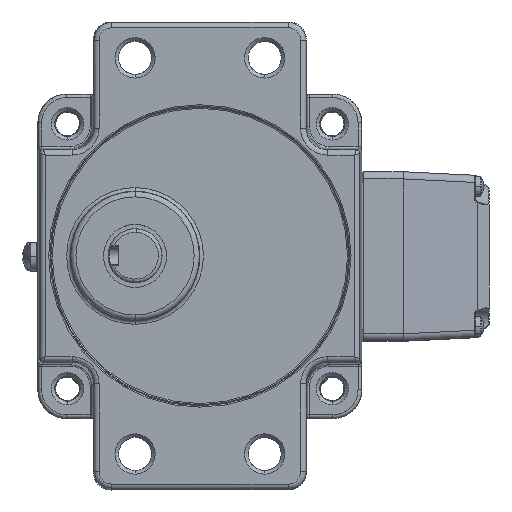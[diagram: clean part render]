
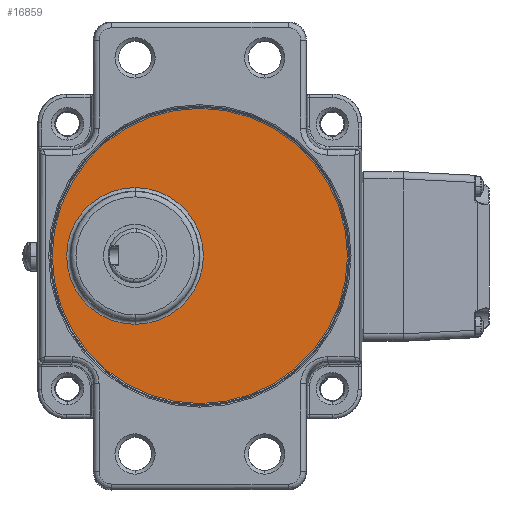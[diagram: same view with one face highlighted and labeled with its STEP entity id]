
A CAD part, top view. The second image highlights one B-rep face of the part: STEP entity #16859.
In plain terms, the highlighted planar face has unit normal (0, 0, 1) as drawn and (0, 0, -1) by its records, which use the part's own axes.
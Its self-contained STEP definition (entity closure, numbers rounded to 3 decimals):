
#442 = DIRECTION ( 'NONE',  ( 1., 0., 0. ) ) ;
#3366 = DIRECTION ( 'NONE',  ( 0., 0., -1. ) ) ;
#6036 = DIRECTION ( 'NONE',  ( 1., 0., 0. ) ) ;
#7174 = CARTESIAN_POINT ( 'NONE',  ( 40.991, 0., -65. ) ) ;
#7202 = ORIENTED_EDGE ( 'NONE', *, *, #18733, .F. ) ;
#9954 = CARTESIAN_POINT ( 'NONE',  ( 18.986, 18., -65. ) ) ;
#11741 = CARTESIAN_POINT ( 'NONE',  ( 0., 18., -65. ) ) ;
#13074 = CARTESIAN_POINT ( 'NONE',  ( 0., 0., -65. ) ) ;
#16859 = ADVANCED_FACE ( 'NONE', ( #20756, #20449 ), #30154, .F. ) ;
#18733 = EDGE_CURVE ( 'NONE', #24086, #28529, #56462, .T. ) ;
#18790 = CIRCLE ( 'NONE', #48739, 40.991 ) ;
#20449 = FACE_BOUND ( 'NONE', #26429, .T. ) ;
#20756 = FACE_OUTER_BOUND ( 'NONE', #51415, .T. ) ;
#21128 = VERTEX_POINT ( 'NONE', #49796 ) ;
#21808 = AXIS2_PLACEMENT_3D ( 'NONE', #13074, #3366, #42785 ) ;
#24086 = VERTEX_POINT ( 'NONE', #39620 ) ;
#24671 = DIRECTION ( 'NONE',  ( 0., 0., 1. ) ) ;
#24894 = ORIENTED_EDGE ( 'NONE', *, *, #26595, .F. ) ;
#25117 = VERTEX_POINT ( 'NONE', #7174 ) ;
#26429 = EDGE_LOOP ( 'NONE', ( #24894, #7202 ) ) ;
#26595 = EDGE_CURVE ( 'NONE', #28529, #24086, #44290, .T. ) ;
#28529 = VERTEX_POINT ( 'NONE', #9954 ) ;
#30154 = PLANE ( 'NONE',  #30622 ) ;
#30622 = AXIS2_PLACEMENT_3D ( 'NONE', #55357, #24671, #442 ) ;
#31779 = DIRECTION ( 'NONE',  ( 1., 0., 0. ) ) ;
#32307 = ORIENTED_EDGE ( 'NONE', *, *, #39834, .T. ) ;
#37047 = EDGE_CURVE ( 'NONE', #21128, #25117, #58997, .T. ) ;
#37917 = AXIS2_PLACEMENT_3D ( 'NONE', #61977, #38029, #58056 ) ;
#38029 = DIRECTION ( 'NONE',  ( 0., 0., -1. ) ) ;
#39620 = CARTESIAN_POINT ( 'NONE',  ( -18.986, 18., -65. ) ) ;
#39834 = EDGE_CURVE ( 'NONE', #25117, #21128, #18790, .T. ) ;
#42785 = DIRECTION ( 'NONE',  ( -1., 0., 0. ) ) ;
#44290 = CIRCLE ( 'NONE', #59757, 18.986 ) ;
#48739 = AXIS2_PLACEMENT_3D ( 'NONE', #50284, #55459, #6036 ) ;
#49796 = CARTESIAN_POINT ( 'NONE',  ( -40.991, 0., -65. ) ) ;
#50284 = CARTESIAN_POINT ( 'NONE',  ( 0., 0., -65. ) ) ;
#51415 = EDGE_LOOP ( 'NONE', ( #56957, #32307 ) ) ;
#55357 = CARTESIAN_POINT ( 'NONE',  ( 0., 0., -65. ) ) ;
#55459 = DIRECTION ( 'NONE',  ( 0., 0., -1. ) ) ;
#55997 = DIRECTION ( 'NONE',  ( 0., 0., -1. ) ) ;
#56462 = CIRCLE ( 'NONE', #37917, 18.986 ) ;
#56957 = ORIENTED_EDGE ( 'NONE', *, *, #37047, .T. ) ;
#58056 = DIRECTION ( 'NONE',  ( -1., 0., 0. ) ) ;
#58997 = CIRCLE ( 'NONE', #21808, 40.991 ) ;
#59757 = AXIS2_PLACEMENT_3D ( 'NONE', #11741, #55997, #31779 ) ;
#61977 = CARTESIAN_POINT ( 'NONE',  ( 0., 18., -65. ) ) ;
